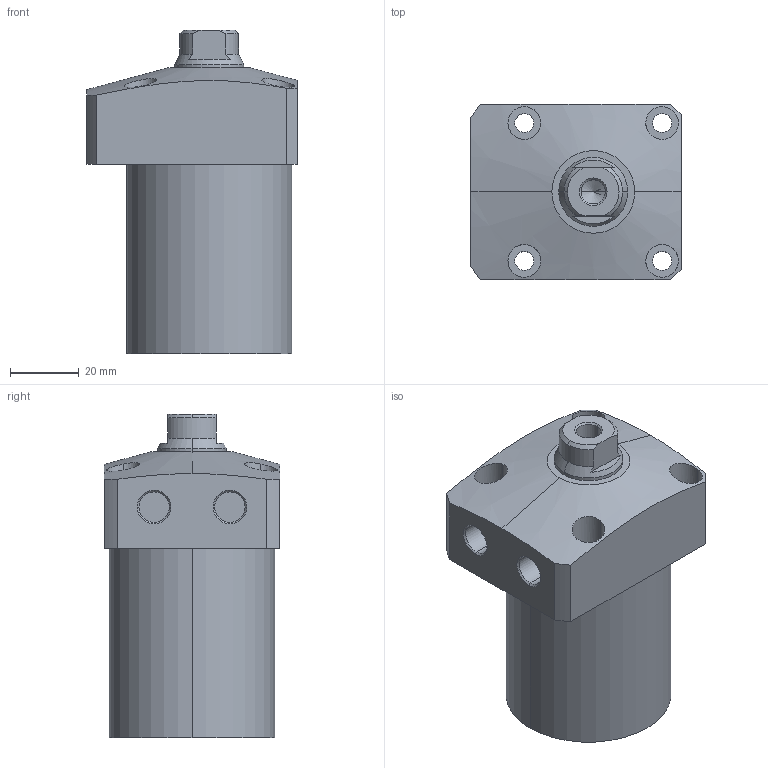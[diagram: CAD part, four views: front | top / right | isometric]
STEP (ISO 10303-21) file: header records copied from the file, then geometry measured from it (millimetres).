
FILE_DESCRIPTION (( 'STEP AP203' ), '1' );
FILE_NAME ('CLL-0480-CA-45.STEP', '2017-05-09T02:25:45', ( '' ), ( '' ), 'SwSTEP 2.0', 'SolidWorks 2015', '' );
FILE_SCHEMA (( 'CONFIG_CONTROL_DESIGN' ));
Length unit declared in the file: millimetre
Products named in the file (1): CLL-0480-CA-45
Bounding box: 61 x 51 x 94 mm (x, y, z)
Volume: 174130.4 mm3; surface area: 22858.6 mm2
Topology: 1 solids, 1 shells, 72 faces, 169 edges, 108 vertices
Faces by surface type: cylinder 35, plane 22, cone 15
Entity records: 2479 total; most frequent: CARTESIAN_POINT 714, DIRECTION 366, ORIENTED_EDGE 334, EDGE_CURVE 167, AXIS2_PLACEMENT_3D 150, VERTEX_POINT 108, EDGE_LOOP 91, CIRCLE 77
